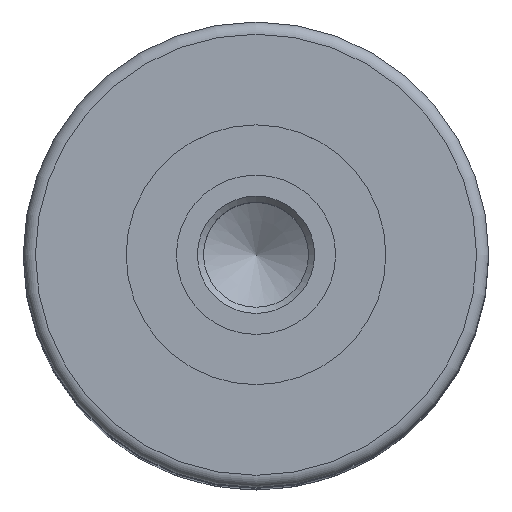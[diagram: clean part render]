
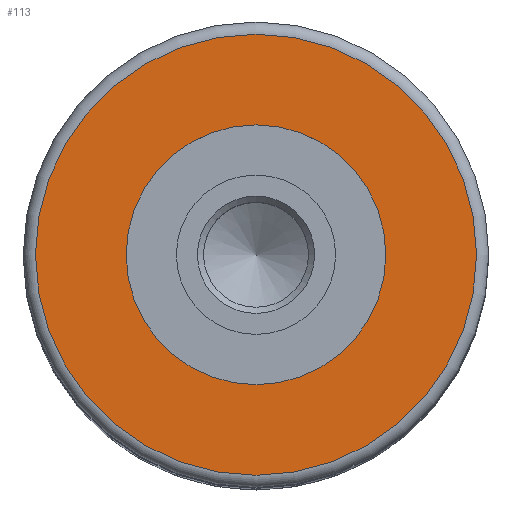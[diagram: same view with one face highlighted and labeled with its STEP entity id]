
A CAD part, top view. The second image highlights one B-rep face of the part: STEP entity #113.
In plain terms, the highlighted planar face has unit normal (0, 0, 1).
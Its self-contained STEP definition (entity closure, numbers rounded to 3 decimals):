
#113=ADVANCED_FACE('',(#200,#201),#202,.T.);
#200=FACE_BOUND('',#309,.T.);
#201=FACE_OUTER_BOUND('',#310,.T.);
#202=PLANE('',#311);
#309=EDGE_LOOP('',(#420));
#310=EDGE_LOOP('',(#421));
#311=AXIS2_PLACEMENT_3D('',#422,#423,#424);
#420=ORIENTED_EDGE('',*,*,#559,.F.);
#421=ORIENTED_EDGE('',*,*,#560,.T.);
#422=CARTESIAN_POINT('',(0.0,0.0,57.75));
#423=DIRECTION('',(0.0,0.0,1.0));
#424=DIRECTION('',(1.0,0.0,0.0));
#559=EDGE_CURVE('',#616,#616,#617,.T.);
#560=EDGE_CURVE('',#618,#618,#619,.T.);
#616=VERTEX_POINT('',#692);
#617=CIRCLE('',#693,10.6);
#618=VERTEX_POINT('',#694);
#619=CIRCLE('',#695,18.0);
#692=CARTESIAN_POINT('',(10.6,0.0,57.75));
#693=AXIS2_PLACEMENT_3D('',#963,#964,#965);
#694=CARTESIAN_POINT('',(18.0,0.0,57.75));
#695=AXIS2_PLACEMENT_3D('',#966,#967,#968);
#963=CARTESIAN_POINT('',(0.0,0.0,57.75));
#964=DIRECTION('',(0.0,0.0,1.0));
#965=DIRECTION('',(1.0,0.0,0.0));
#966=CARTESIAN_POINT('',(0.0,0.0,57.75));
#967=DIRECTION('',(0.0,0.0,1.0));
#968=DIRECTION('',(1.0,0.0,0.0));
